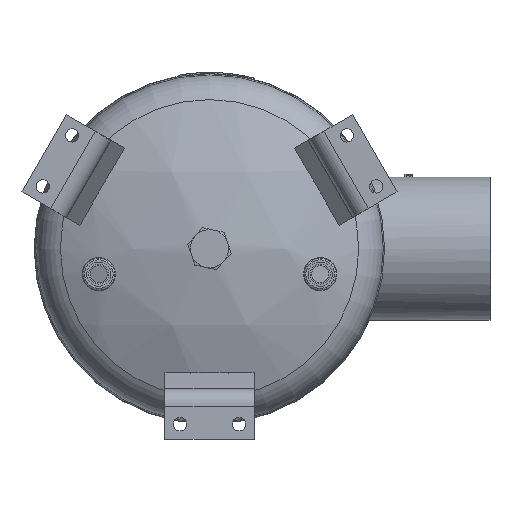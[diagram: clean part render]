
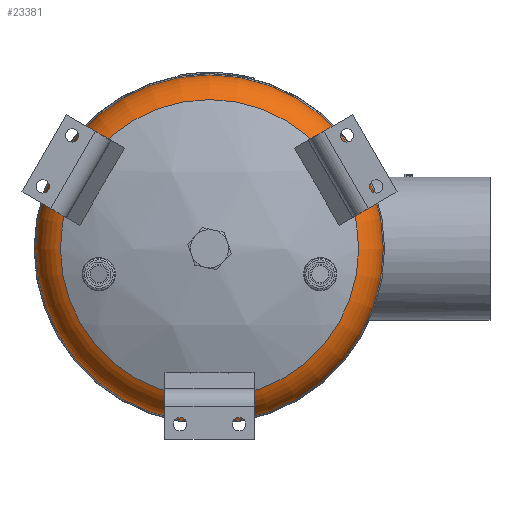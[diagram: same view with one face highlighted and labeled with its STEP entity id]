
A CAD part, front view. The second image highlights one B-rep face of the part: STEP entity #23381.
In plain terms, the highlighted toroidal (fillet/blend) face has major radius 103.2 mm and minor radius 33.4 mm.
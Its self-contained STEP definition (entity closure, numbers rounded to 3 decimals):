
#5232=FACE_BOUND('',#8495,.T.);
#5732=CIRCLE('',#25173,136.6);
#5733=CIRCLE('',#25175,117.235);
#5757=TOROIDAL_SURFACE('',#25174,103.2,33.4);
#7030=FACE_OUTER_BOUND('',#8494,.T.);
#8494=EDGE_LOOP('',(#21982));
#8495=EDGE_LOOP('',(#21983));
#11686=VERTEX_POINT('',#50021);
#11687=VERTEX_POINT('',#50024);
#15130=EDGE_CURVE('',#11686,#11686,#5732,.T.);
#15131=EDGE_CURVE('',#11687,#11687,#5733,.T.);
#21982=ORIENTED_EDGE('',*,*,#15131,.F.);
#21983=ORIENTED_EDGE('',*,*,#15130,.T.);
#23381=ADVANCED_FACE('',(#7030,#5232),#5757,.T.);
#25173=AXIS2_PLACEMENT_3D('',#50022,#30395,#30396);
#25174=AXIS2_PLACEMENT_3D('',#50023,#30397,#30398);
#25175=AXIS2_PLACEMENT_3D('',#50025,#30399,#30400);
#30395=DIRECTION('center_axis',(0.,-1.,0.));
#30396=DIRECTION('ref_axis',(-1.,0.,0.));
#30397=DIRECTION('center_axis',(0.,-1.,0.));
#30398=DIRECTION('ref_axis',(0.,0.,
1.));
#30399=DIRECTION('center_axis',(0.,-1.,0.));
#30400=DIRECTION('ref_axis',(-1.,0.,0.));
#50021=CARTESIAN_POINT('',(-136.6,-31.059,0.));
#50022=CARTESIAN_POINT('Origin',(0.,-31.059,
0.));
#50023=CARTESIAN_POINT('Origin',(0.,-31.059,
0.));
#50024=CARTESIAN_POINT('',(-117.235,-61.367,0.));
#50025=CARTESIAN_POINT('Origin',(0.,-61.367,
0.));
